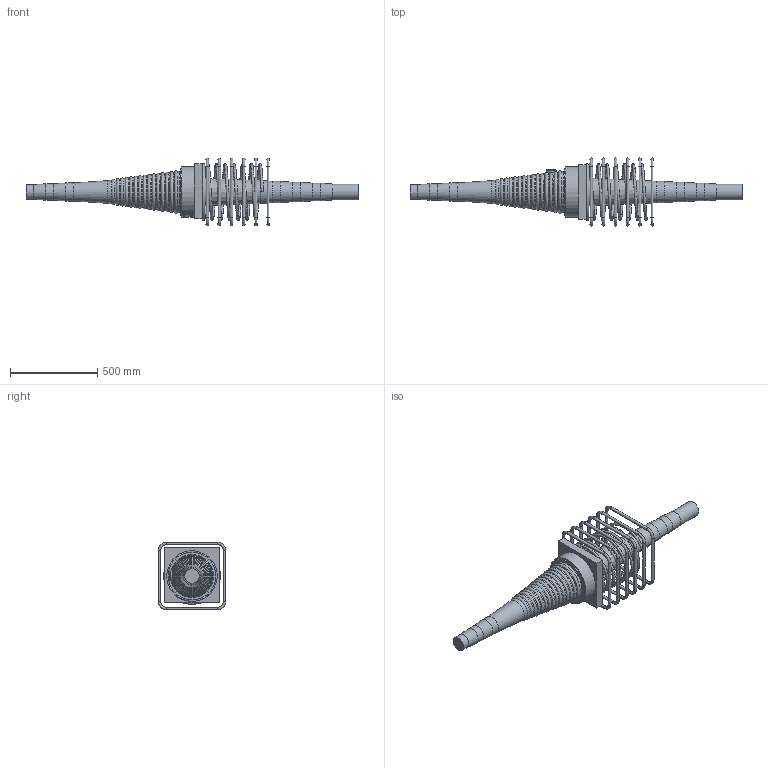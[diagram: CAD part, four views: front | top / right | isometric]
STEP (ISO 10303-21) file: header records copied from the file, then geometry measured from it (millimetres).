
FILE_DESCRIPTION(/* description */ (''),/* implementation_level */ '2;1');
FILE_NAME(/* name */ 'Z:\04 Publications\05 Give-out\BBR\6_3D_Models\BBR VT CONA CMI\BBR VT CONA CMI SP\01506\BBR VT CONA CMI SP 1506_Couler K Assembly_CS-34,28.stp',/* time_stamp */ '2017-05-05T15:39:15+02:00',/* author */ ('IP'),/* organization */ (''),/* preprocessor_version */ 'ST-DEVELOPER v16.1',/* originating_system */ 'Autodesk Inventor 2016',/* authorisation */ '');
FILE_SCHEMA (('AUTOMOTIVE_DESIGN { 1 0 10303 214 3 1 1 }'));
Products named in the file (1): BBR VT CONA CMI SP 1506_Couler K Assembly_CS-34,28
Bounding box: 1906 x 390 x 390 mm (x, y, z)
Volume: 39162163 mm3; surface area: 1796470.2 mm2
Topology: 8 solids, 8 shells, 871 faces, 2268 edges, 1460 vertices
Faces by surface type: bspline 417, plane 258, cylinder 98, torus 81, cone 17
Full cylindrical faces by diameter (mm): 16 x24, 34 x1, 57 x1, 84 x1, 91.725 x1, 94 x1, 101.793 x1, 104 x1, 111.862 x1, 121.932 x1, 273 x1, 290 x1
Entity records: 39582 total; most frequent: CARTESIAN_POINT 21059, ORIENTED_EDGE 4264, DIRECTION 2622, EDGE_CURVE 2131, VERTEX_POINT 1456, EDGE_LOOP 1066, LINE 878, VECTOR 878
